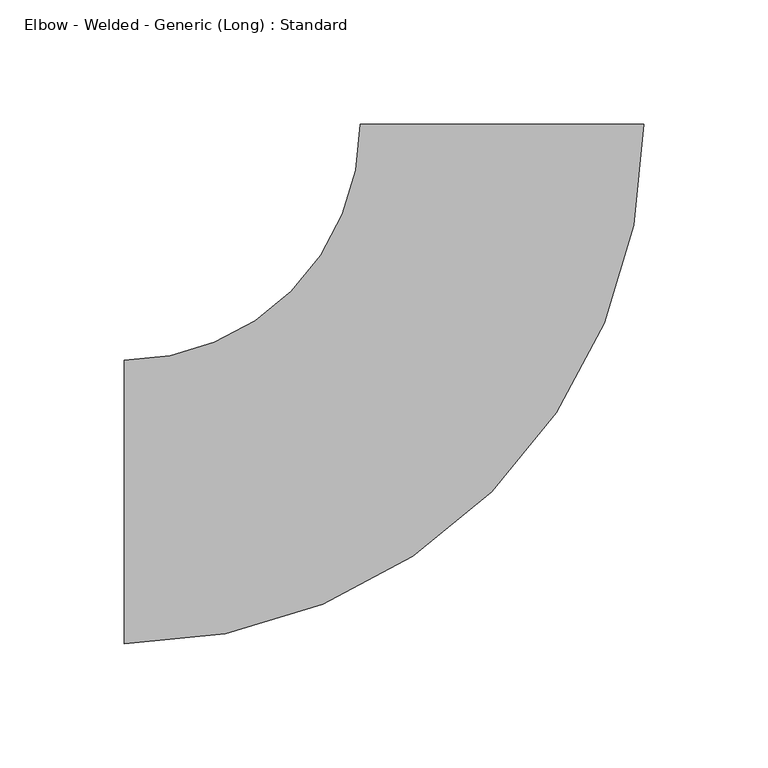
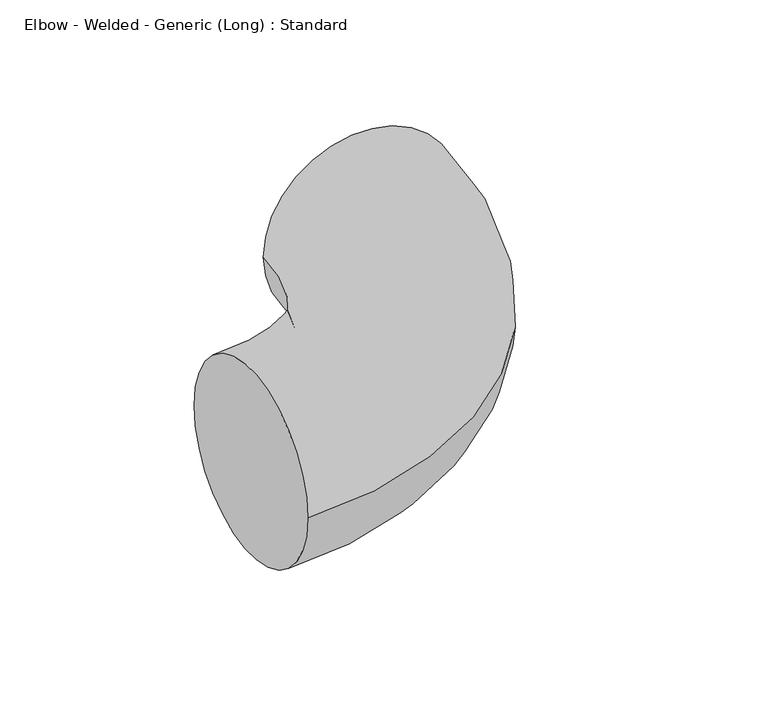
"""IFC4 building model written with IfcOpenShell, lengths in millimetres: pipe fitting geometry, Elbow - Welded - Generic (Long) : Standard."""

from ifc_helpers import new_model, si_unit, point, frame, origin, place, context, project, spatial, circle_curve, ellipse_curve, trimmed, source, transform, mapped, element, save
from ifc_brep_helpers import plane_surface, revolved_surface, advanced_brep


def elbow_welded_generic_long_standard_3d96d437(model_context):
    return source(origin(), model_context, "Body", "AdvancedBrep", [
        advanced_brep(
        [(-152.4, -57.15, 0.0), (-152.4, 57.15, 0.0), (57.15, 152.4, 0.0), (-57.15, 152.4, 0.0)],
        [
            (0, 1, circle_curve(frame((-152.4, 0.0, 0.0), z_axis=(-1.0, 0.0, 0.0), x_axis=(0.0, 1.0, 0.0)), 57.15)),
            (1, 0, circle_curve(frame((-152.4, 0.0, 0.0), z_axis=(-1.0, 0.0, 0.0), x_axis=(0.0, 1.0, 0.0)), 57.15)),
            (2, 3, circle_curve(frame((0.0, 152.4, 0.0), z_axis=(0.0, 1.0, 0.0), x_axis=(-1.0, 0.0, 0.0)), 57.15)),
            (3, 2, circle_curve(frame((0.0, 152.4, 0.0), z_axis=(0.0, 1.0, 0.0), x_axis=(-1.0, 0.0, 0.0)), 57.15)),
            (3, 1, circle_curve(frame((-152.4, 152.4, 0.0), z_axis=(0.0, 0.0, -1.0), x_axis=(0.0, -1.0, 0.0)), 95.25)),
            (0, 2, circle_curve(frame((-152.4, 152.4, 0.0), z_axis=(0.0, 0.0, 1.0), x_axis=(0.0, -1.0, 0.0)), 209.55)),
        ],
        [
            plane_surface(frame((-152.4, 0.0, 0.0), z_axis=(-1.0, 0.0, 0.0), x_axis=(0.0, 0.0, 1.0))),
            plane_surface(frame((0.0, 152.4, 0.0), z_axis=(0.0, 1.0, 0.0), x_axis=(0.0, 0.0, 1.0))),
            revolved_surface(trimmed(ellipse_curve(frame((-152.4, 0.0, 0.0), z_axis=(-1.0, 0.0, 0.0), x_axis=(0.0, 1.0, 0.0)), 57.15, 57.15), [point((-152.4, -57.15, 0.0))], [point((-152.4, 57.15, 0.0))], True, "CARTESIAN"), (-152.4, 152.4, 0.0), (0.0, 0.0, 1.0)),
            revolved_surface(trimmed(ellipse_curve(frame((-152.4, 0.0, 0.0), z_axis=(-1.0, 0.0, 0.0), x_axis=(0.0, 1.0, 0.0)), 57.15, 57.15), [point((-152.4, 57.15, 0.0))], [point((-152.4, -57.15, 0.0))], True, "CARTESIAN"), (-152.4, 152.4, 0.0), (0.0, 0.0, 1.0)),
        ],
        [
            (0, [[1, 2]]),
            (1, [[3, 4]]),
            (2, [[5, -1, 6, -4]]),
            (3, [[-6, -2, -5, -3]]),
        ],
    ),
    ])


if __name__ == "__main__":
    model = new_model("IFC4")
    model_context = context("Model", 3, world=origin())
    ifc_project = project(units=[si_unit("LENGTHUNIT", "METRE", prefix="MILLI")], contexts=[model_context])
    site = spatial("IfcSite", under=ifc_project)
    building = spatial("IfcBuilding", under=site)
    placement = place(None, origin())
    elbow_welded_generic_long_standard_shape = elbow_welded_generic_long_standard_3d96d437(model_context)
    element("IfcPipeFitting", 1, ObjectType="Elbow - Welded - Generic (Long) : Standard", at=placement, inside=building, context=model_context, shape_type="MappedRepresentation", body=[
        mapped(elbow_welded_generic_long_standard_shape, transform((0.0, 0.0, 0.0), x_axis=(1.0, 0.0, 0.0), y_axis=(0.0, 1.0, 0.0), z_axis=(0.0, 0.0, 1.0))),
    ])
    save(model, "model.ifc")
